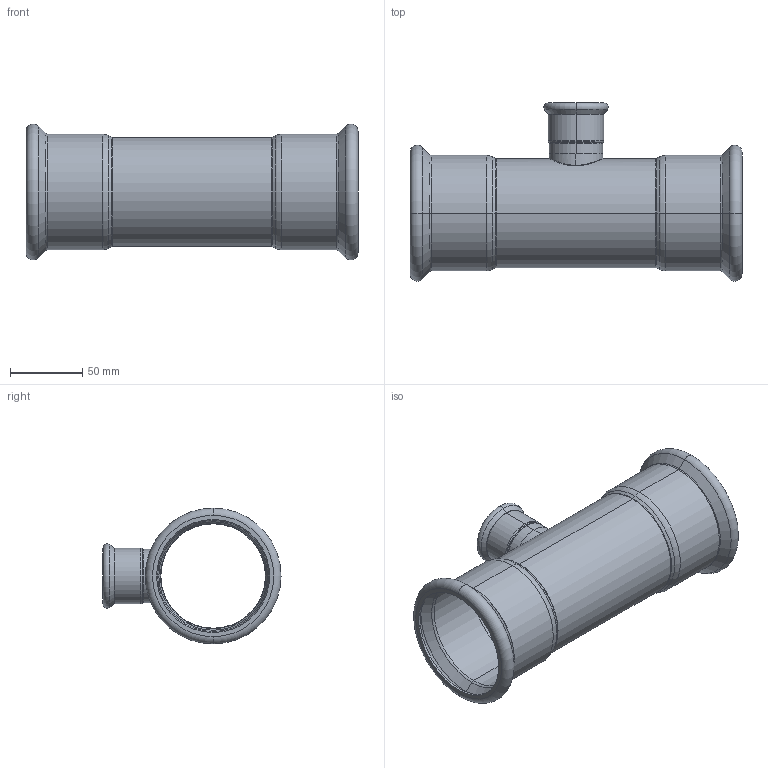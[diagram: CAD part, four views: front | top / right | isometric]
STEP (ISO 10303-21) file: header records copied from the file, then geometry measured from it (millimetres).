
FILE_DESCRIPTION (( 'STEP AP203' ), '1' );
FILE_NAME ('GDA5214.STEP', '2019-01-12T06:11:08', ( '' ), ( '' ), 'SwSTEP 2.0', 'SolidWorks 2015', '' );
FILE_SCHEMA (( 'CONFIG_CONTROL_DESIGN' ));
Length unit declared in the file: millimetre
Products named in the file (3): T(R)-¢ñ-76.1¡Á35''; GDA5214; T-ｉ-01-35
Assembly tree (2 placements, depth 2):
  GDA5214
    T(R)-¢ñ-76.1¡Á35''
    T-ｉ-01-35
Bounding box: 229 x 122.84 x 93.68 mm (x, y, z)
Volume: 95640.6 mm3; surface area: 128352.9 mm2
Topology: 2 solids, 2 shells, 114 faces, 234 edges, 128 vertices
Faces by surface type: torus 48, cylinder 30, cone 24, plane 8, bspline 4
Entity records: 4316 total; most frequent: CARTESIAN_POINT 1526, DIRECTION 620, ORIENTED_EDGE 468, AXIS2_PLACEMENT_3D 283, EDGE_CURVE 234, CIRCLE 168, VERTEX_POINT 128, EDGE_LOOP 124
